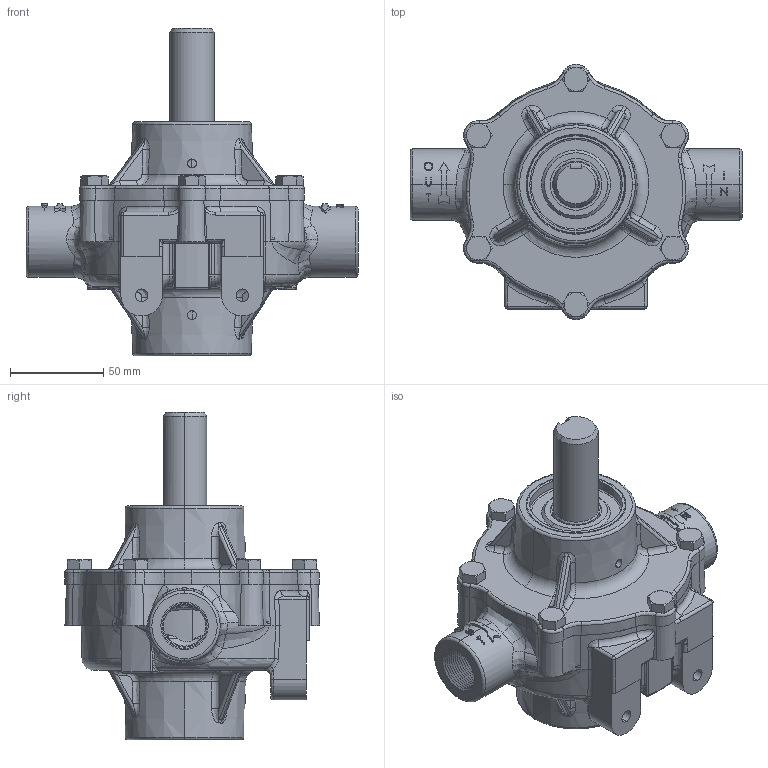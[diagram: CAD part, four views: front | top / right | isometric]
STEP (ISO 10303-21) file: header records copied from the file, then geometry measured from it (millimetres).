
FILE_DESCRIPTION (( 'STEP AP203' ), '1' );
FILE_NAME ('7560C-R.STEP', '2014-04-03T19:01:38', ( '' ), ( '' ), 'SwSTEP 2.0', 'SolidWorks 2012', '' );
FILE_SCHEMA (( 'CONFIG_CONTROL_DESIGN' ));
Length unit declared in the file: inch
Products named in the file (1): 7560C-R
Bounding box: 177.8 x 136.67 x 175.64 mm (x, y, z)
Volume: 936576.7 mm3; surface area: 101723.3 mm2
Topology: 1 solids, 65 shells, 2983 faces, 7512 edges, 4718 vertices
Faces by surface type: plane 1124, bspline 792, cone 537, cylinder 379, torus 143, sphere 8
Entity records: 132801 total; most frequent: CARTESIAN_POINT 67350, ORIENTED_EDGE 15000, DIRECTION 11093, EDGE_CURVE 7500, VERTEX_POINT 4718, VECTOR 3857, LINE 3857, AXIS2_PLACEMENT_3D 3618
